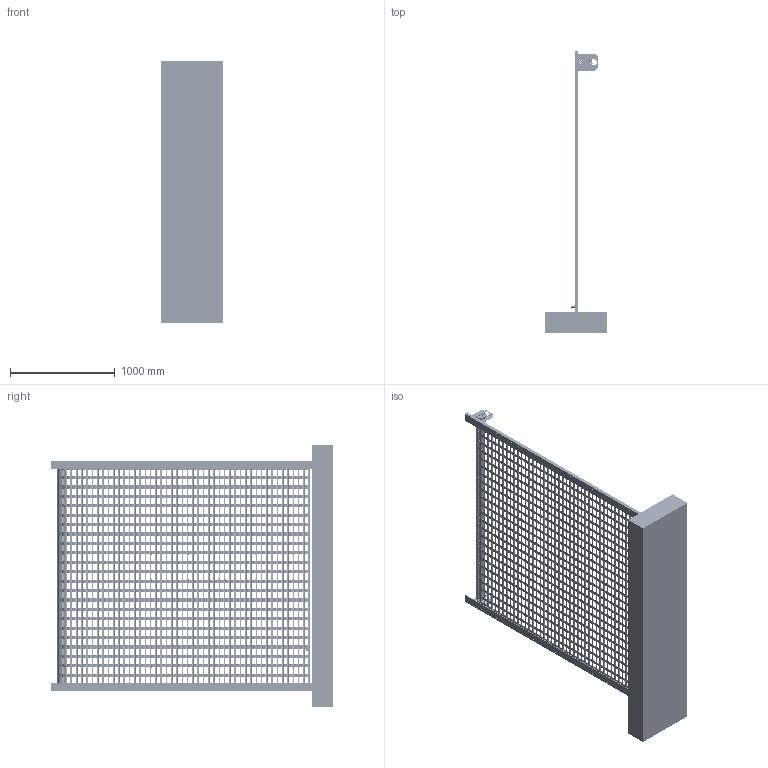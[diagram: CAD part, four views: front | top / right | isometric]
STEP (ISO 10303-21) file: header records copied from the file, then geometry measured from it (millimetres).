
FILE_DESCRIPTION (( 'STEP AP203' ), '1' );
FILE_NAME ('Kokema CD 600 R.STEP', '2019-06-28T08:27:51', ( '' ), ( '' ), 'SwSTEP 2.0', 'SolidWorks 2017', '' );
FILE_SCHEMA (( 'CONFIG_CONTROL_DESIGN' ));
Products named in the file (1): Kokema CD 600 R
Bounding box: 600 x 2700 x 2500 mm (x, y, z)
Volume: 314831946.9 mm3; surface area: 20623028.6 mm2
Topology: 66 solids, 67 shells, 11837 faces, 38271 edges, 25455 vertices
Faces by surface type: cylinder 6118, plane 5565, torus 90, bspline 36, cone 20, sphere 8
Full cylindrical faces by diameter (mm): 3 x10, 3.5 x2, 4 x17, 6 x3, 7 x2, 7.2 x2, 8 x100, 9 x2, 12 x1, 15.6 x1, 20 x1, 20.537 x1, 21.6 x1, 24.077 x2, 26 x1, 28.863 x1, 40.6 x1, 45 x1, 46 x1, 48 x2
Entity records: 489387 total; most frequent: CARTESIAN_POINT 166696, ORIENTED_EDGE 75892, DIRECTION 57096, EDGE_CURVE 37946, VERTEX_POINT 25323, AXIS2_PLACEMENT_3D 19289, VECTOR 18518, LINE 18518
